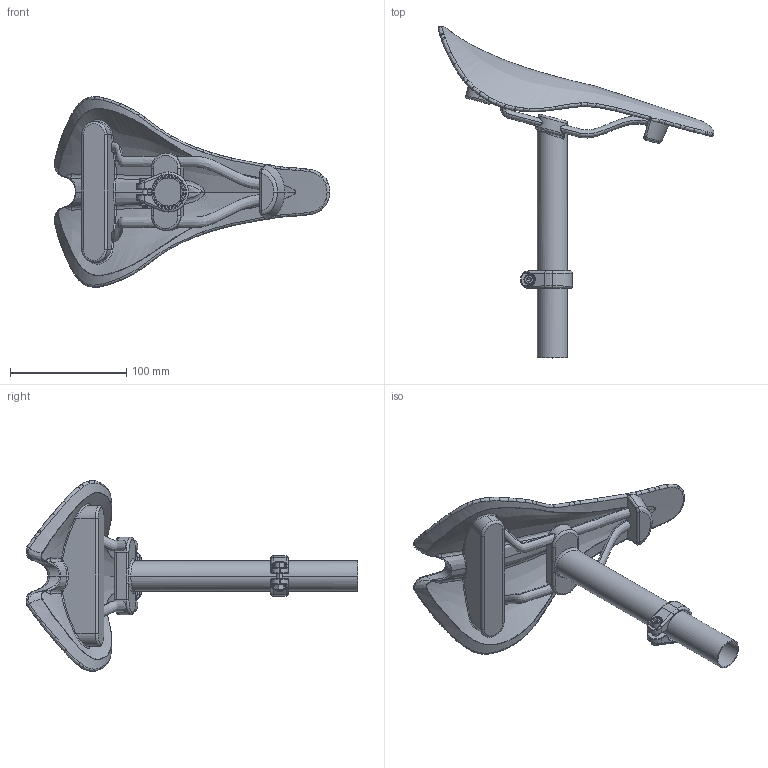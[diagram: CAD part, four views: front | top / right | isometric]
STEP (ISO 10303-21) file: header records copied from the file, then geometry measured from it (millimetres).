
FILE_DESCRIPTION (( 'STEP AP203' ), '1' );
FILE_NAME ('Seat Assembly.STEP', '2021-02-01T06:10:37', ( '' ), ( '' ), 'SwSTEP 2.0', 'SolidWorks 2021', '' );
FILE_SCHEMA (( 'CONFIG_CONTROL_DESIGN' ));
Length unit declared in the file: millimetre
Products named in the file (5): Bike Saddle; Seat Assembly; hex nut style 1_am_B18.2.4.1M - Hex nut, Style 1,  M5 x 0.8 --D-N; socket head cap screw_am_B18.3.1M - 5 x 0.8 x 20 Hex SHCS -- 20NHX; Seat Post Clamp
Assembly tree (4 placements, depth 2):
  Seat Assembly
    Seat Post Clamp
    Bike Saddle
    socket head cap screw_am_B18.3.1M - 5 x 0.8 x 20 Hex SHCS -- 20NHX
    hex nut style 1_am_B18.2.4.1M - Hex nut, Style 1,  M5 x 0.8 --D-N
Bounding box: 237.77 x 286.05 x 164.3 mm (x, y, z)
Volume: 373133.2 mm3; surface area: 107264.1 mm2
Topology: 4 solids, 4 shells, 358 faces, 900 edges, 543 vertices
Faces by surface type: bspline 178, cylinder 73, plane 52, torus 31, cone 22, sphere 2
Entity records: 35288 total; most frequent: CARTESIAN_POINT 27623, ORIENTED_EDGE 1784, DIRECTION 1123, EDGE_CURVE 892, VERTEX_POINT 543, AXIS2_PLACEMENT_3D 479, B_SPLINE_CURVE_WITH_KNOTS 402, EDGE_LOOP 371
